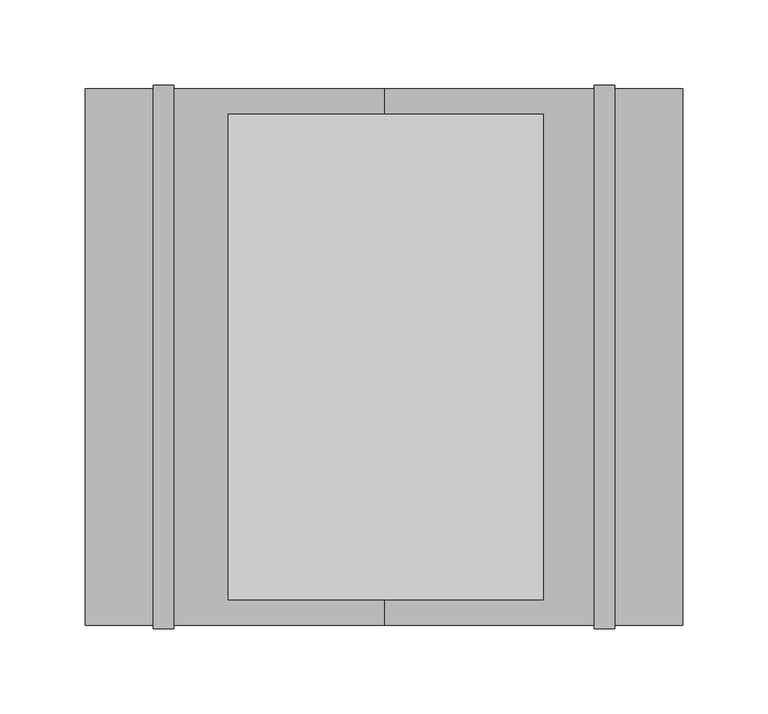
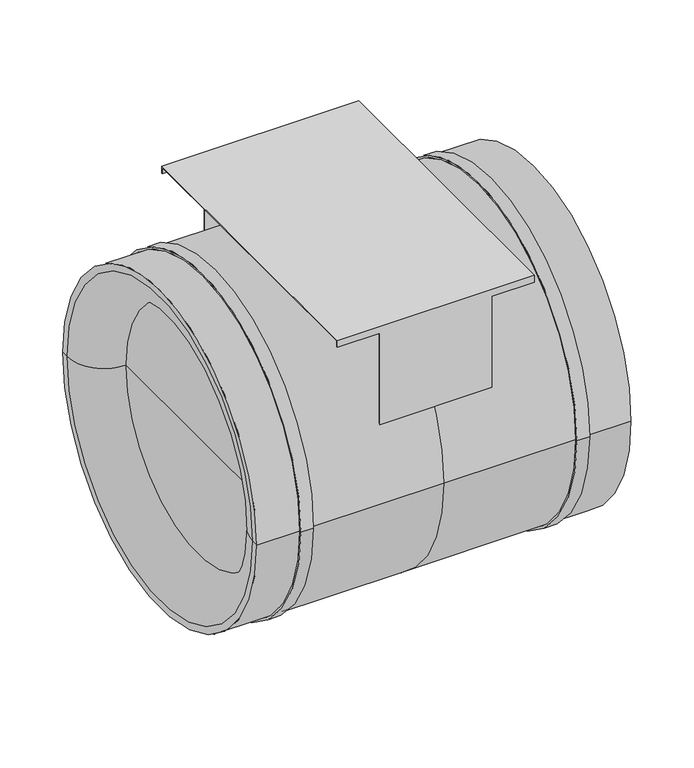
"""IFC4 building model written with IfcOpenShell, lengths in millimetres: unitary equipment geometry, VE-Wentylator-ParaForma-Harmann-JETTEC-Nawiewny : 315/4300F."""

from ifc_helpers import new_model, si_unit, point, frame, frame_2d, origin, place, context, project, spatial, polyline, circle_curve, ellipse_curve, trimmed, segment, composite_curve, outline, extrude, source, transform, mapped, element, save
from ifc_brep_helpers import plane_surface, cylinder_surface, revolved_surface, advanced_brep


def unitary_equipment_682f7cd7(model_context):
    return source(origin(), model_context, "Body", "SolidModel", [
        extrude(outline(composite_curve([segment(polyline([(-45.5, -47.7), (-45.5, 47.7)]), True, "CONTINUOUS"), segment(trimmed(circle_curve(frame_2d((-40.5, 47.7)), 5.0), [point((-45.5, 47.7))], [point((-40.5, 52.7))], False, "CARTESIAN"), True, "CONTINUOUS"), segment(polyline([(-40.5, 52.7), (40.5, 52.7)]), True, "CONTINUOUS"), segment(trimmed(circle_curve(frame_2d((40.5, 47.7)), 5.0), [point((40.5, 52.7))], [point((45.5, 47.7))], False, "CARTESIAN"), True, "CONTINUOUS"), segment(polyline([(45.5, 47.7), (45.5, -47.7)]), True, "CONTINUOUS"), segment(trimmed(circle_curve(frame_2d((40.5, -47.7)), 5.0), [point((45.5, -47.7))], [point((40.5, -52.7))], False, "CARTESIAN"), True, "CONTINUOUS"), segment(polyline([(40.5, -52.7), (-40.5, -52.7)]), True, "CONTINUOUS"), segment(trimmed(circle_curve(frame_2d((-40.5, -47.7)), 5.0), [point((-40.5, -52.7))], [point((-45.5, -47.7))], False, "CARTESIAN"), True, "CONTINUOUS")], self_intersect=False)), frame((0.0, -55.0, 0.0), z_axis=(0.0, 1.0, 0.0), x_axis=(0.0, 0.0, 1.0)), (0.0, 0.0, 1.0), 45.0),
        advanced_brep(
        [(93.5, 142.5, 157.5), (93.5, 142.5, 164.3), (93.5, -142.5, 164.3), (93.5, -142.5, 157.5), (93.5, -141.7, 157.5), (93.5, -141.7, 163.5), (93.5, 141.7, 163.5), (93.5, 141.7, 157.5), (53.5, 141.7, 157.5), (53.5, 142.5, 157.5), (-91.5, 141.7, 163.5), (-91.5, 141.7, 157.5), (-51.5, 141.7, 157.5), (-51.5, 141.7, 68.7557998), (53.5, 141.7, 68.7557998), (-91.5, -141.7, 163.5), (53.5, -141.7, 157.5), (53.5, -141.7, 68.7557998), (-51.5, -141.7, 68.7557998), (-51.5, -141.7, 157.5), (-91.5, -141.7, 157.5), (53.5, -142.5, 157.5), (-91.5, -142.5, 164.3), (-91.5, -142.5, 157.5), (-51.5, -142.5, 157.5), (-51.5, -142.5, 67.0820393), (53.5, -142.5, 67.0820393), (-91.5, 142.5, 164.3), (53.5, 142.5, 67.0820393), (-51.5, 142.5, 67.0820393), (-51.5, 142.5, 157.5), (-91.5, 142.5, 157.5)],
        [
            (0, 1),
            (1, 2),
            (2, 3),
            (3, 4),
            (4, 5),
            (5, 6),
            (6, 7),
            (7, 0),
            (7, 8),
            (8, 9),
            (9, 0),
            (6, 10),
            (10, 11),
            (11, 12),
            (12, 13),
            (13, 14),
            (14, 8),
            (5, 15),
            (15, 10),
            (4, 16),
            (16, 17),
            (17, 18),
            (18, 19),
            (19, 20),
            (20, 15),
            (3, 21),
            (21, 16),
            (2, 22),
            (22, 23),
            (23, 24),
            (24, 25),
            (25, 26),
            (26, 21),
            (1, 27),
            (27, 22),
            (9, 28),
            (28, 29),
            (29, 30),
            (30, 31),
            (31, 27),
            (29, 13, circle_curve(frame((-51.5, 0.0, 0.0), z_axis=(1.0, 0.0, 0.0), x_axis=(0.0, 1.0, 0.0)), 157.5)),
            (12, 30),
            (18, 25, circle_curve(frame((-51.5, 0.0, 0.0), z_axis=(1.0, 0.0, 0.0), x_axis=(0.0, 1.0, 0.0)), 157.5)),
            (24, 19),
            (14, 28, circle_curve(frame((53.5, 0.0, 0.0), z_axis=(-1.0, 0.0, 0.0), x_axis=(0.0, 1.0, 0.0)), 157.5)),
            (26, 17, circle_curve(frame((53.5, 0.0, 0.0), z_axis=(-1.0, 0.0, 0.0), x_axis=(0.0, 1.0, 0.0)), 157.5)),
            (31, 11),
            (20, 23),
        ],
        [
            plane_surface(frame((93.5, 0.0, 0.0), z_axis=(1.0, 0.0, 0.0), x_axis=(0.0, 0.0, 1.0))),
            plane_surface(frame((53.5, 142.5, 157.5), z_axis=(0.0, 0.0, -1.0), x_axis=(1.0, 0.0, 0.0))),
            plane_surface(frame((53.5, 141.7, 157.5), z_axis=(0.0, -1.0, 0.0), x_axis=(1.0, 0.0, 0.0))),
            plane_surface(frame((53.5, -133.0382235, 163.5), z_axis=(0.0, 0.0, -1.0), x_axis=(1.0, 0.0, 0.0))),
            plane_surface(frame((53.5, -141.7, 163.5), z_axis=(0.0, 1.0, 0.0), x_axis=(1.0, 0.0, 0.0))),
            plane_surface(frame((53.5, -141.7, 157.5), z_axis=(0.0, 0.0, -1.0), x_axis=(1.0, 0.0, 0.0))),
            plane_surface(frame((53.5, -142.5, 157.5), z_axis=(0.0, -1.0, 0.0), x_axis=(1.0, 0.0, 0.0))),
            plane_surface(frame((53.5, 132.5, 164.3), z_axis=(0.0, 0.0, 1.0), x_axis=(1.0, 0.0, 0.0))),
            plane_surface(frame((53.5, 142.5, 164.3), z_axis=(0.0, 1.0, 0.0), x_axis=(1.0, 0.0, 0.0))),
            plane_surface(frame((-51.5, 0.0, 0.0), z_axis=(-1.0, 0.0, 0.0), x_axis=(0.0, 0.0, 1.0))),
            plane_surface(frame((53.5, 0.0, 0.0), z_axis=(1.0, 0.0, 0.0), x_axis=(0.0, 0.0, 1.0))),
            revolved_surface(polyline([(-51.5, 157.5, 0.0), (53.5, 157.5, 0.0)]), (-51.5, 0.0, 0.0), (-1.0, 0.0, 0.0)),
            plane_surface(frame((-91.5, 0.0, 0.0), z_axis=(-1.0, 0.0, 0.0), x_axis=(0.0, 0.0, 1.0))),
            plane_surface(frame((-91.5, 142.5, 157.5), z_axis=(0.0, 0.0, -1.0), x_axis=(1.0, 0.0, 0.0))),
            plane_surface(frame((-91.5, -141.7, 157.5), z_axis=(0.0, 0.0, -1.0), x_axis=(1.0, 0.0, 0.0))),
        ],
        [
            (0, [[1, 2, 3, 4, 5, 6, 7, 8]]),
            (1, [[-8, 9, 10, 11]]),
            (2, [[-7, 12, 13, 14, 15, 16, 17, -9]]),
            (3, [[-12, -6, 18, 19]]),
            (4, [[-18, -5, 20, 21, 22, 23, 24, 25]]),
            (5, [[-4, 26, 27, -20]]),
            (6, [[-3, 28, 29, 30, 31, 32, 33, -26]]),
            (7, [[-28, -2, 34, 35]]),
            (8, [[-34, -1, -11, 36, 37, 38, 39, 40]]),
            (9, [[41, -15, 42, -38]]),
            (9, [[43, -31, 44, -23]]),
            (10, [[45, -36, -10, -17]]),
            (10, [[46, -21, -27, -33]]),
            (11, [[-41, -37, -45, -16]]),
            (11, [[-43, -22, -46, -32]]),
            (12, [[47, -13, -19, -25, 48, -29, -35, -40]]),
            (13, [[-47, -39, -42, -14]]),
            (14, [[-48, -24, -44, -30]]),
        ],
    ),
        advanced_brep(
        [(-123.4, 157.5, 0.0), (0.0, 157.5, 0.0), (0.0, -157.5, 0.0), (-123.4, -157.5, 0.0), (-175.4, -157.5, 0.0), (-175.4, 157.5, 0.0), (-135.4, 157.5, 0.0), (-135.4, -157.5, 0.0), (-175.4, -151.0, 0.0), (-175.4, 151.0, 0.0), (-140.4, -116.0, 0.0), (-140.4, 116.0, 0.0), (-140.4, 0.0, 0.0), (175.4, -157.5, 0.0), (175.4, 157.5, 0.0), (175.4, 0.0, 0.0), (135.4, -157.5, 0.0), (135.4, 157.5, 0.0), (123.4, 157.5, 0.0), (123.4, -157.5, 0.0), (-123.4, -159.5, 0.0), (-123.4, 159.5, 0.0), (-135.4, -159.5, 0.0), (-135.4, 159.5, 0.0), (135.4, -159.5, 0.0), (135.4, 159.5, 0.0), (123.4, -159.5, 0.0), (123.4, 159.5, 0.0)],
        [
            (0, 1),
            (1, 2, circle_curve(frame((0.0, 0.0, 0.0), z_axis=(-1.0, 0.0, 0.0), x_axis=(0.0, 1.0, 0.0)), 157.5)),
            (2, 3),
            (3, 0, circle_curve(frame((-123.4, 0.0, 0.0), z_axis=(1.0, 0.0, 0.0), x_axis=(0.0, 1.0, 0.0)), 157.5)),
            (0, 3, circle_curve(frame((-123.4, 0.0, 0.0), z_axis=(1.0, 0.0, 0.0), x_axis=(0.0, 1.0, 0.0)), 157.5)),
            (2, 1, circle_curve(frame((0.0, 0.0, 0.0), z_axis=(-1.0, 0.0, 0.0), x_axis=(0.0, 1.0, 0.0)), 157.5)),
            (4, 5, circle_curve(frame((-175.4, 0.0, 0.0), z_axis=(1.0, 0.0, 0.0), x_axis=(0.0, 1.0, 0.0)), 157.5)),
            (5, 6),
            (6, 7, circle_curve(frame((-135.4, 0.0, 0.0), z_axis=(-1.0, 0.0, 0.0), x_axis=(0.0, 1.0, 0.0)), 157.5)),
            (7, 4),
            (5, 4, circle_curve(frame((-175.4, 0.0, 0.0), z_axis=(1.0, 0.0, 0.0), x_axis=(0.0, 1.0, 0.0)), 157.5)),
            (7, 6, circle_curve(frame((-135.4, 0.0, 0.0), z_axis=(-1.0, 0.0, 0.0), x_axis=(0.0, 1.0, 0.0)), 157.5)),
            (4, 8),
            (8, 9, circle_curve(frame((-175.4, 0.0, 0.0), z_axis=(1.0, 0.0, 0.0), x_axis=(0.0, 1.0, 0.0)), 151.0)),
            (9, 5),
            (9, 8, circle_curve(frame((-175.4, 0.0, 0.0), z_axis=(1.0, 0.0, 0.0), x_axis=(0.0, 1.0, 0.0)), 151.0)),
            (8, 10, circle_curve(frame((-140.4, -151.0, 0.0), z_axis=(0.0, 0.0, -1.0), x_axis=(1.0, 0.0, 0.0)), 35.0)),
            (10, 11, circle_curve(frame((-140.4, 0.0, 0.0), z_axis=(1.0, 0.0, 0.0), x_axis=(0.0, 1.0, 0.0)), 116.0)),
            (11, 9, circle_curve(frame((-140.4, 151.0, 0.0), z_axis=(0.0, 0.0, -1.0), x_axis=(1.0, 0.0, 0.0)), 35.0)),
            (11, 10, circle_curve(frame((-140.4, 0.0, 0.0), z_axis=(1.0, 0.0, 0.0), x_axis=(0.0, 1.0, 0.0)), 116.0)),
            (10, 12),
            (12, 11),
            (13, 14, circle_curve(frame((175.4, 0.0, 0.0), z_axis=(1.0, 0.0, 0.0), x_axis=(0.0, 1.0, 0.0)), 157.5)),
            (14, 15),
            (15, 13),
            (14, 13, circle_curve(frame((175.4, 0.0, 0.0), z_axis=(1.0, 0.0, 0.0), x_axis=(0.0, 1.0, 0.0)), 157.5)),
            (13, 16),
            (16, 17, circle_curve(frame((135.4, 0.0, 0.0), z_axis=(1.0, 0.0, 0.0), x_axis=(0.0, 1.0, 0.0)), 157.5)),
            (17, 14),
            (17, 16, circle_curve(frame((135.4, 0.0, 0.0), z_axis=(1.0, 0.0, 0.0), x_axis=(0.0, 1.0, 0.0)), 157.5)),
            (1, 18),
            (18, 19, circle_curve(frame((123.4, 0.0, 0.0), z_axis=(-1.0, 0.0, 0.0), x_axis=(0.0, 1.0, 0.0)), 157.5)),
            (19, 2),
            (19, 18, circle_curve(frame((123.4, 0.0, 0.0), z_axis=(-1.0, 0.0, 0.0), x_axis=(0.0, 1.0, 0.0)), 157.5)),
            (20, 21, circle_curve(frame((-123.4, 0.0, 0.0), z_axis=(1.0, 0.0, 0.0), x_axis=(0.0, 1.0, 0.0)), 159.5)),
            (21, 0),
            (3, 20),
            (21, 20, circle_curve(frame((-123.4, 0.0, 0.0), z_axis=(1.0, 0.0, 0.0), x_axis=(0.0, 1.0, 0.0)), 159.5)),
            (20, 22),
            (22, 23, circle_curve(frame((-135.4, 0.0, 0.0), z_axis=(1.0, 0.0, 0.0), x_axis=(0.0, 1.0, 0.0)), 159.5)),
            (23, 21),
            (23, 22, circle_curve(frame((-135.4, 0.0, 0.0), z_axis=(1.0, 0.0, 0.0), x_axis=(0.0, 1.0, 0.0)), 159.5)),
            (22, 7),
            (6, 23),
            (24, 25, circle_curve(frame((135.4, 0.0, 0.0), z_axis=(1.0, 0.0, 0.0), x_axis=(0.0, 1.0, 0.0)), 159.5)),
            (25, 17),
            (16, 24),
            (25, 24, circle_curve(frame((135.4, 0.0, 0.0), z_axis=(1.0, 0.0, 0.0), x_axis=(0.0, 1.0, 0.0)), 159.5)),
            (24, 26),
            (26, 27, circle_curve(frame((123.4, 0.0, 0.0), z_axis=(1.0, 0.0, 0.0), x_axis=(0.0, 1.0, 0.0)), 159.5)),
            (27, 25),
            (27, 26, circle_curve(frame((123.4, 0.0, 0.0), z_axis=(1.0, 0.0, 0.0), x_axis=(0.0, 1.0, 0.0)), 159.5)),
            (26, 19),
            (18, 27),
        ],
        [
            cylinder_surface(frame((-140.4, 0.0, 0.0), z_axis=(-1.0, 0.0, 0.0), x_axis=(0.0, 1.0, 0.0)), 157.5),
            plane_surface(frame((-175.4, 0.0, 0.0), z_axis=(-1.0, 0.0, 0.0), x_axis=(0.0, 1.0, 0.0))),
            revolved_surface(trimmed(ellipse_curve(frame((-140.4, 151.0, 0.0), z_axis=(0.0, 0.0, 1.0), x_axis=(1.0, 0.0, 0.0)), 35.0, 35.0), [point((-175.4, 151.0, 0.0))], [point((-140.4, 116.0, 0.0))], True, "CARTESIAN"), (-140.4, 0.0, 0.0), (-1.0, 0.0, 0.0)),
            plane_surface(frame((-140.4, 0.0, 0.0), z_axis=(-1.0, 0.0, 0.0), x_axis=(0.0, 1.0, 0.0))),
            plane_surface(frame((175.4, 0.0, 0.0), z_axis=(1.0, 0.0, 0.0), x_axis=(0.0, 1.0, 0.0))),
            cylinder_surface(frame((0.0, 0.0, 0.0), z_axis=(-1.0, 0.0, 0.0), x_axis=(0.0, 1.0, 0.0)), 157.5),
            plane_surface(frame((-123.4, 0.0, 0.0), z_axis=(1.0, 0.0, 0.0), x_axis=(0.0, 1.0, 0.0))),
            cylinder_surface(frame((-135.4, 0.0, 0.0), z_axis=(-1.0, 0.0, 0.0), x_axis=(0.0, 1.0, 0.0)), 159.5),
            plane_surface(frame((-135.4, 0.0, 0.0), z_axis=(-1.0, 0.0, 0.0), x_axis=(0.0, 1.0, 0.0))),
            plane_surface(frame((135.4, 0.0, 0.0), z_axis=(1.0, 0.0, 0.0), x_axis=(0.0, 1.0, 0.0))),
            plane_surface(frame((123.4, 0.0, 0.0), z_axis=(-1.0, 0.0, 0.0), x_axis=(0.0, 1.0, 0.0))),
        ],
        [
            (0, [[1, 2, 3, 4]]),
            (0, [[-1, 5, -3, 6]]),
            (0, [[7, 8, 9, 10]]),
            (0, [[-8, 11, -10, 12]]),
            (1, [[-7, 13, 14, 15]]),
            (1, [[-11, -15, 16, -13]]),
            (2, [[-14, 17, 18, 19]]),
            (2, [[-16, -19, 20, -17]]),
            (3, [[-18, 21, 22]]),
            (3, [[-20, -22, -21]]),
            (4, [[23, 24, 25]]),
            (4, [[-24, 26, -25]]),
            (5, [[-23, 27, 28, 29]]),
            (5, [[-26, -29, 30, -27]]),
            (5, [[31, 32, 33, -2]]),
            (5, [[-31, -6, -33, 34]]),
            (6, [[35, 36, -4, 37]]),
            (6, [[38, -37, -5, -36]]),
            (7, [[-35, 39, 40, 41]]),
            (7, [[-38, -41, 42, -39]]),
            (8, [[-40, 43, -9, 44]]),
            (8, [[-42, -44, -12, -43]]),
            (9, [[45, 46, -28, 47]]),
            (9, [[48, -47, -30, -46]]),
            (7, [[-45, 49, 50, 51]]),
            (7, [[-48, -51, 52, -49]]),
            (10, [[-50, 53, -32, 54]]),
            (10, [[-52, -54, -34, -53]]),
        ],
    ),
    ])


if __name__ == "__main__":
    model = new_model("IFC4")
    model_context = context("Model", 3, world=origin())
    ifc_project = project(units=[si_unit("LENGTHUNIT", "METRE", prefix="MILLI")], contexts=[model_context])
    site = spatial("IfcSite", under=ifc_project)
    building = spatial("IfcBuilding", under=site)
    placement = place(None, origin())
    unitary_equipment_shape = unitary_equipment_682f7cd7(model_context)
    element("IfcUnitaryEquipment", 1, ObjectType="VE-Wentylator-ParaForma-Harmann-JETTEC-Nawiewny : 315/4300F", at=placement, inside=building, context=model_context, shape_type="MappedRepresentation", body=[
        mapped(unitary_equipment_shape, transform((0.0, 0.0, 0.0), x_axis=(1.0, 0.0, 0.0), y_axis=(0.0, 1.0, 0.0), z_axis=(0.0, 0.0, 1.0))),
    ])
    save(model, "model.ifc")
